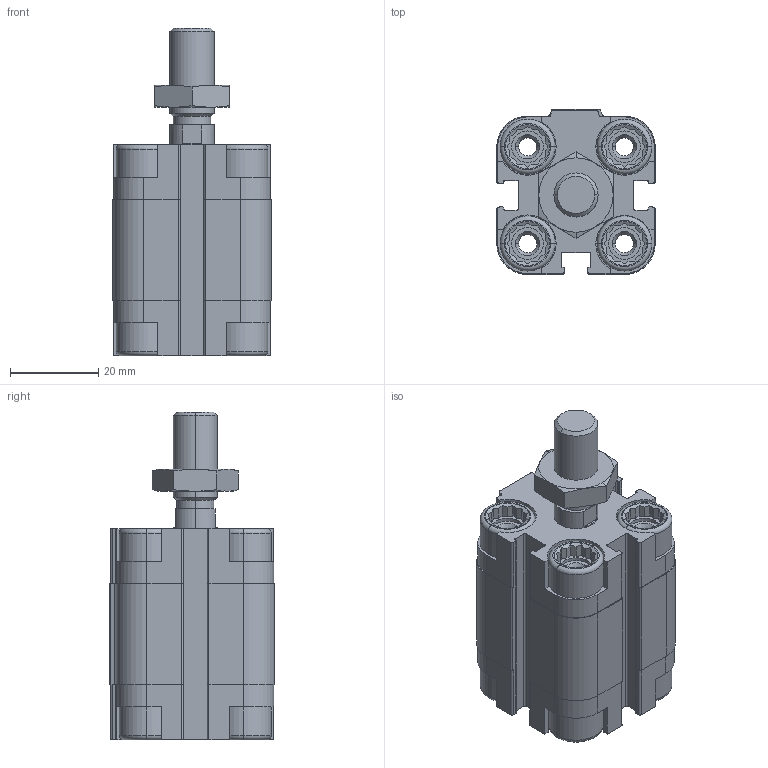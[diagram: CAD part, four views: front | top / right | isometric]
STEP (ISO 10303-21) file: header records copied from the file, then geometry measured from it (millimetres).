
FILE_DESCRIPTION (( 'STEP AP203' ), '1' );
FILE_NAME ('CDVU20-10.STEP', '2020-03-19T11:22:08', ( '' ), ( '' ), 'SwSTEP 2.0', 'SolidWorks 2019', '' );
FILE_SCHEMA (( 'CONFIG_CONTROL_DESIGN' ));
Length unit declared in the file: millimetre
Products named in the file (1): CDVU20-10
Bounding box: 36 x 37.5 x 74.5 mm (x, y, z)
Volume: 49285 mm3; surface area: 22786.1 mm2
Topology: 3 solids, 3 shells, 611 faces, 1602 edges, 1034 vertices
Faces by surface type: plane 361, cylinder 180, cone 54, torus 16
Entity records: 19229 total; most frequent: CARTESIAN_POINT 4104, ORIENTED_EDGE 3196, DIRECTION 3062, EDGE_CURVE 1598, AXIS2_PLACEMENT_3D 1056, VERTEX_POINT 1034, VECTOR 950, LINE 950
